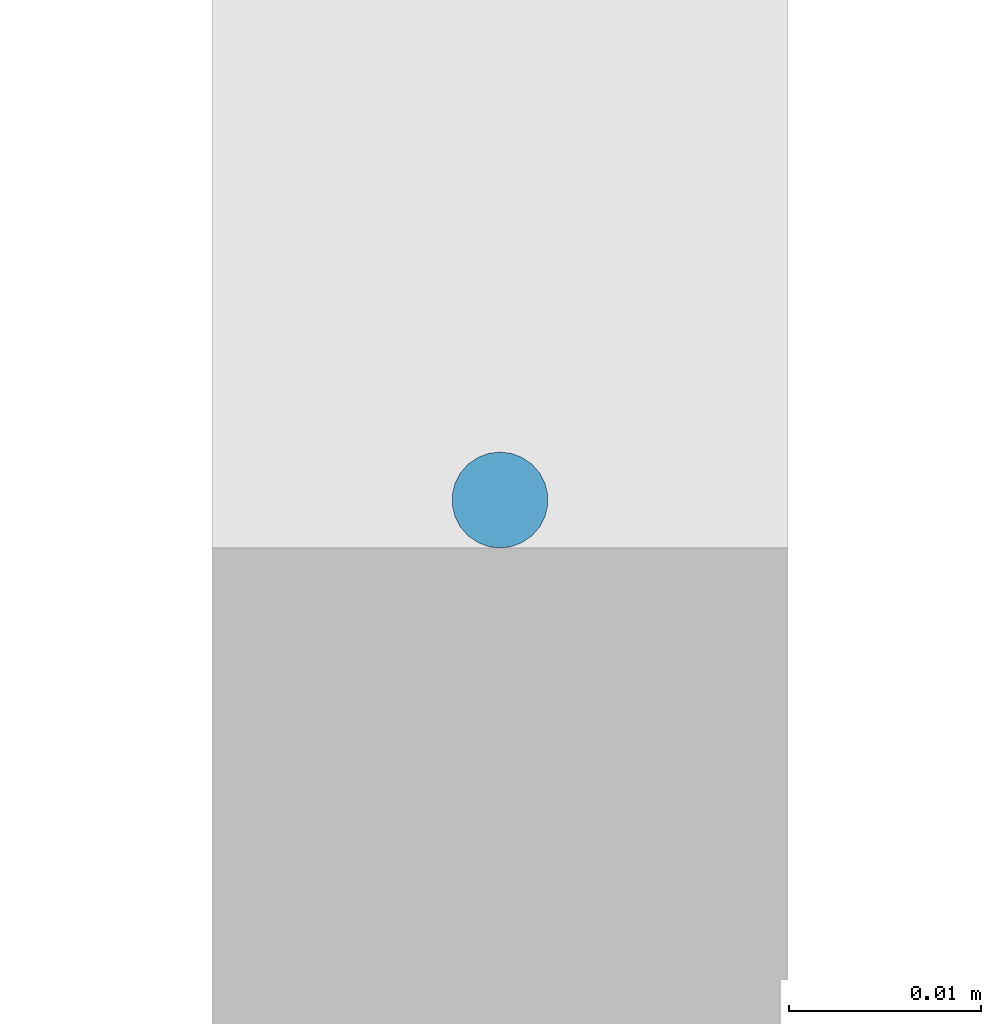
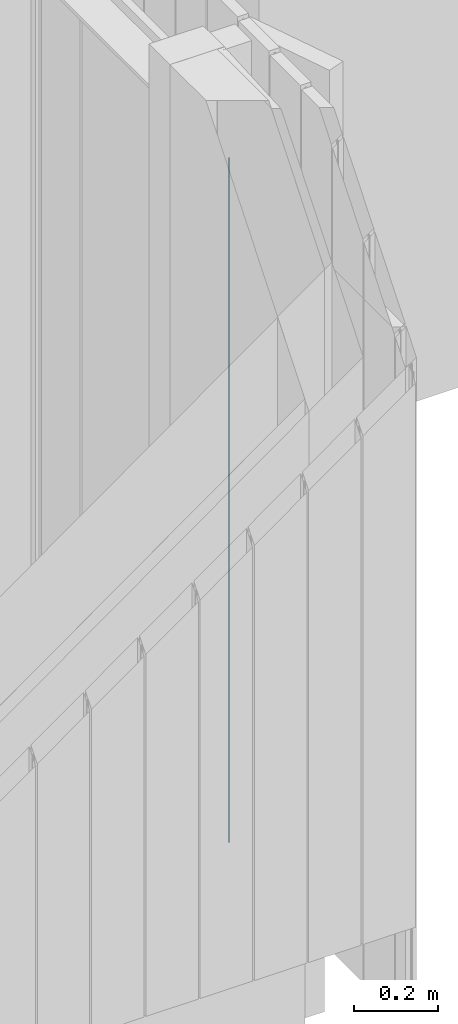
# One storey, part 45 of 81: 1 member, 1 element without a shape of its own.
"""IFC2X3 building model written with IfcOpenShell, lengths in metres."""

from ifc_helpers import new_model, entity, si_unit, converted_unit, derived_unit, direction, frame, frame_2d, origin, place, context, subcontext, project, spatial, circle, extrude, source, transform, mapped, material, type_object, type_shapes, element, aggregate, save


model = new_model("IFC2X3")

# Units and contexts
model_context = context("Model", 3, precision=1e-05, world=origin(), true_north=direction((6.12303176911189e-17, 1.0)))
body_context = subcontext(model_context, "Body", "Model", "MODEL_VIEW")
ifc_project = project(units=[si_unit("LENGTHUNIT", "METRE"), si_unit("AREAUNIT", "SQUARE_METRE"), si_unit("VOLUMEUNIT", "CUBIC_METRE"), converted_unit("PLANEANGLEUNIT", "DEGREE", entity("IfcRatioMeasure", 0.0174532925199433), si_unit("PLANEANGLEUNIT", "RADIAN"), dimensions=[0, 0, 0, 0, 0, 0, 0]), si_unit("MASSUNIT", "GRAM", prefix="KILO"), derived_unit("MASSDENSITYUNIT", [(si_unit("MASSUNIT", "GRAM", prefix="KILO"), 1), (si_unit("LENGTHUNIT", "METRE"), -3)]), derived_unit("MOMENTOFINERTIAUNIT", [(si_unit("LENGTHUNIT", "METRE"), 4)]), si_unit("TIMEUNIT", "SECOND"), si_unit("FREQUENCYUNIT", "HERTZ"), si_unit("THERMODYNAMICTEMPERATUREUNIT", "DEGREE_CELSIUS"), derived_unit("THERMALTRANSMITTANCEUNIT", [(si_unit("MASSUNIT", "GRAM", prefix="KILO"), 1), (si_unit("THERMODYNAMICTEMPERATUREUNIT", "KELVIN"), -1), (si_unit("TIMEUNIT", "SECOND"), -3)]), derived_unit("VOLUMETRICFLOWRATEUNIT", [(si_unit("LENGTHUNIT", "METRE"), 3), (si_unit("TIMEUNIT", "SECOND"), -1)]), si_unit("ELECTRICCURRENTUNIT", "AMPERE"), si_unit("ELECTRICVOLTAGEUNIT", "VOLT"), si_unit("POWERUNIT", "WATT"), si_unit("FORCEUNIT", "NEWTON", prefix="KILO"), si_unit("ILLUMINANCEUNIT", "LUX"), si_unit("LUMINOUSFLUXUNIT", "LUMEN"), si_unit("LUMINOUSINTENSITYUNIT", "CANDELA"), derived_unit("USERDEFINED", [(si_unit("MASSUNIT", "GRAM", prefix="KILO"), -1), (si_unit("LENGTHUNIT", "METRE"), -2), (si_unit("TIMEUNIT", "SECOND"), 3), (si_unit("LUMINOUSFLUXUNIT", "LUMEN"), 1)]), derived_unit("LINEARVELOCITYUNIT", [(si_unit("LENGTHUNIT", "METRE"), 1), (si_unit("TIMEUNIT", "SECOND"), -1)]), si_unit("PRESSUREUNIT", "PASCAL"), derived_unit("USERDEFINED", [(si_unit("LENGTHUNIT", "METRE"), -2), (si_unit("MASSUNIT", "GRAM", prefix="KILO"), 1), (si_unit("TIMEUNIT", "SECOND"), -2)]), derived_unit("LINEARFORCEUNIT", [(si_unit("MASSUNIT", "GRAM", prefix="KILO"), 1), (si_unit("LENGTHUNIT", "METRE"), 1), (si_unit("TIMEUNIT", "SECOND"), -2), (si_unit("LENGTHUNIT", "METRE"), -1)]), derived_unit("PLANARFORCEUNIT", [(si_unit("MASSUNIT", "GRAM", prefix="KILO"), 1), (si_unit("LENGTHUNIT", "METRE"), 1), (si_unit("TIMEUNIT", "SECOND"), -2), (si_unit("LENGTHUNIT", "METRE"), -2)])], contexts=[model_context])

# Site, building, storey
site_placement = place(None, origin())
site = spatial("IfcSite", under=ifc_project, at=site_placement, Name="Surface", CompositionType="ELEMENT")
building_placement = place(site_placement, origin())
building = spatial("IfcBuilding", under=site, at=building_placement, CompositionType="ELEMENT")
storey_placement = place(building_placement, origin())
storey = spatial("IfcBuildingStorey", under=building, at=storey_placement, Name="01 RDC", CompositionType="ELEMENT", Elevation=-1.94916083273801e-14)

# Curtain wall, member
curtain_wall_type = type_object("IfcCurtainWallType", Name="Mur-rideau:1m x 2m", PredefinedType="NOTDEFINED")
curtain_wall_placement = place(storey_placement, origin())
curtain_wall = element("IfcCurtainWall", 1, at=curtain_wall_placement, inside=storey, type_object=curtain_wall_type, Name="Mur-rideau:1m x 2m", ObjectType="Mur-rideau:1m x 2m")
ifc_material = material(Name="Aluminium - Vert")
member_type = type_object("IfcMemberType", Name="Meneau circulaire:R-30 mm", PredefinedType="MULLION", material=ifc_material)
shared_shape = source(origin(), body_context, "Body", "SweptSolid", [
    extrude(circle(Radius=0.0025, at=frame_2d((-1.17965647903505e-32, 3.7744895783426e-18), x_axis=(1.0, 0.0))), frame((-0.0025, 0.0, -2.0)), (0.0, 0.0, 1.0), 2.0),
])
type_shapes(member_type, [shared_shape])
member_placement = place(storey_placement, frame((8.02156158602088, -5.42096095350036, 2.0), z_axis=(0.0, 0.0, 1.0), x_axis=(0.0, 1.0, 0.0)))
member = element("IfcMember", 2, at=member_placement, type_object=member_type, material=ifc_material, Name="Meneau circulaire:R-30 mm", ObjectType="Meneau circulaire:R-30 mm", context=body_context, shape_type="MappedRepresentation", body=[
    mapped(shared_shape, transform((0.0, 0.0, 0.0), scale=1.0)),
])
aggregate(curtain_wall, [member])

save(model, "model.ifc")
